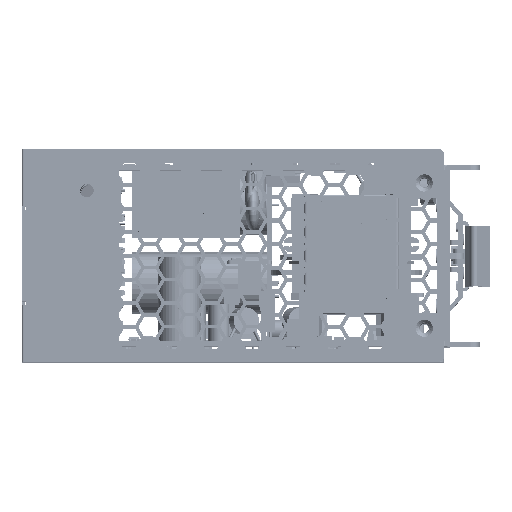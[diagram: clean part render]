
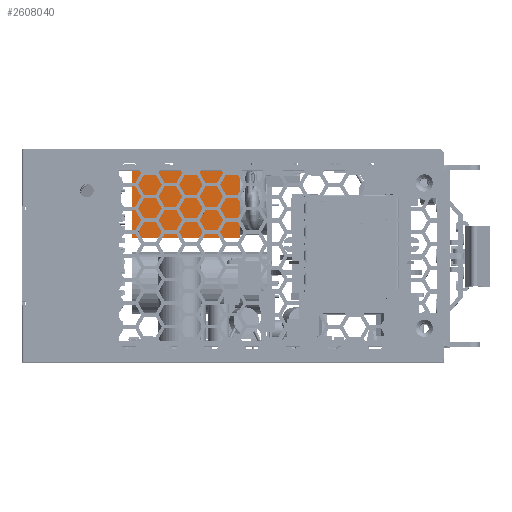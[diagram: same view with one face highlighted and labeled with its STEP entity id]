
A CAD part, top view. The second image highlights one B-rep face of the part: STEP entity #2608040.
In plain terms, the highlighted planar face has unit normal (0, 0, 1) as drawn and (1, 0, 0) by its records, which use the part's own axes.
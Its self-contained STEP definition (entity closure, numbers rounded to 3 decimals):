
#2607520=CARTESIAN_POINT('',(5.5,-16.,0.));
#2607530=VERTEX_POINT('',#2607520);
#2607610=CARTESIAN_POINT('',(5.5,-16.,20.))
;
#2607620=VERTEX_POINT('',#2607610);
#2607650=CARTESIAN_POINT('',(5.5,-16.,20.))
;
#2607660=DIRECTION('',(0.,0.,-1.));
#2607670=VECTOR('',#2607660,1.);
#2607680=LINE('',#2607650,#2607670);
#2607690=EDGE_CURVE('',#2607620,#2607530,#2607680,.T.);
#2607740=CARTESIAN_POINT('',(5.5,16.,0.));
#2607750=DIRECTION('',(1.,0.,0.));
#2607760=DIRECTION('',(0.,-1.,0.));
#2607770=AXIS2_PLACEMENT_3D('',#2607740,#2607750,#2607760);
#2607780=PLANE('',#2607770);
#2607790=CARTESIAN_POINT('',(5.5,-16.,0.));
#2607800=DIRECTION('',(0.,1.,0.));
#2607810=VECTOR('',#2607800,1.);
#2607820=LINE('',#2607790,#2607810);
#2607830=CARTESIAN_POINT('',(5.5,16.,0.));
#2607840=VERTEX_POINT('',#2607830);
#2607850=EDGE_CURVE('',#2607530,#2607840,#2607820,.T.);
#2607860=ORIENTED_EDGE('',*,*,#2607850,.T.);
#2607870=ORIENTED_EDGE('',*,*,#2607690,.T.);
#2607880=CARTESIAN_POINT('',(5.5,16.,20.));
#2607890=DIRECTION('',(0.,-1.,0.));
#2607900=VECTOR('',#2607890,1.);
#2607910=LINE('',#2607880,#2607900);
#2607920=CARTESIAN_POINT('',(5.5,16.,20.));
#2607930=VERTEX_POINT('',#2607920);
#2607940=EDGE_CURVE('',#2607930,#2607620,#2607910,.T.);
#2607950=ORIENTED_EDGE('',*,*,#2607940,.T.);
#2607960=CARTESIAN_POINT('',(5.5,16.,20.));
#2607970=DIRECTION('',(0.,0.,-1.));
#2607980=VECTOR('',#2607970,1.);
#2607990=LINE('',#2607960,#2607980);
#2608000=EDGE_CURVE('',#2607930,#2607840,#2607990,.T.);
#2608010=ORIENTED_EDGE('',*,*,#2608000,.F.);
#2608020=EDGE_LOOP('',(#2608010,#2607950,#2607870,#2607860));
#2608030=FACE_OUTER_BOUND('',#2608020,.T.);
#2608040=ADVANCED_FACE('',(#2608030),#2607780,.T.);
